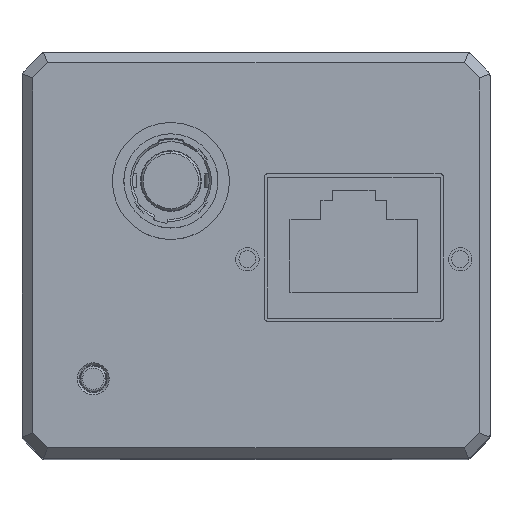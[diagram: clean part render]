
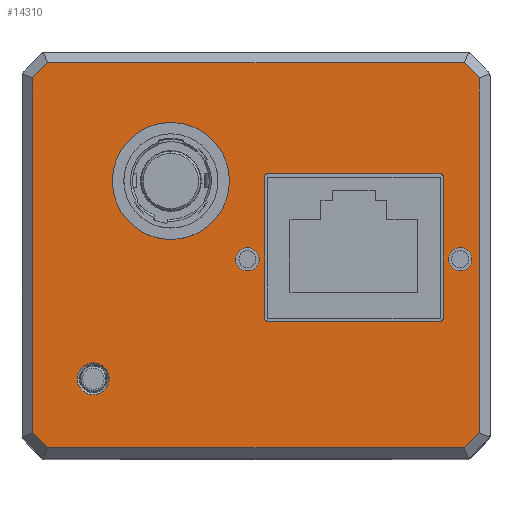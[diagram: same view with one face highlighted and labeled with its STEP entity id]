
A CAD part, top view. The second image highlights one B-rep face of the part: STEP entity #14310.
In plain terms, the highlighted planar face has unit normal (0, 0, 1).
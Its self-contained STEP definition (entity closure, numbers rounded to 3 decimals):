
#756=DIRECTION('',(0.,1.,0.));
#757=VECTOR('',#756,33.372);
#758=CARTESIAN_POINT('',(21.,-16.686,59.35));
#759=LINE('',#758,#757);
#760=DIRECTION('',(-0.707,-0.707,0.));
#761=VECTOR('',#760,2.);
#762=CARTESIAN_POINT('',(21.,-16.686,59.35));
#763=LINE('',#762,#761);
#764=DIRECTION('',(-0.707,0.707,0.));
#765=VECTOR('',#764,2.);
#766=CARTESIAN_POINT('',(-19.586,-18.1,59.35));
#767=LINE('',#766,#765);
#768=DIRECTION('',(0.707,0.707,0.));
#769=VECTOR('',#768,2.);
#770=CARTESIAN_POINT('',(-21.,16.686,59.35));
#771=LINE('',#770,#769);
#772=DIRECTION('',(0.707,-0.707,0.));
#773=VECTOR('',#772,2.);
#774=CARTESIAN_POINT('',(19.586,18.1,59.35));
#775=LINE('',#774,#773);
#776=CARTESIAN_POINT('',(-0.804,-0.35,59.35));
#777=DIRECTION('',(0.,0.,1.));
#778=DIRECTION('',(1.,0.,0.));
#779=AXIS2_PLACEMENT_3D('',#776,#777,#778);
#781=CARTESIAN_POINT('',(-0.804,-0.35,59.35));
#782=DIRECTION('',(0.,0.,1.));
#783=DIRECTION('',(-1.,0.,0.));
#784=AXIS2_PLACEMENT_3D('',#781,#782,#783);
#786=CARTESIAN_POINT('',(19.196,-0.35,59.35));
#787=DIRECTION('',(0.,0.,1.));
#788=DIRECTION('',(1.,0.,0.));
#789=AXIS2_PLACEMENT_3D('',#786,#787,#788);
#791=CARTESIAN_POINT('',(19.196,-0.35,59.35));
#792=DIRECTION('',(0.,0.,1.));
#793=DIRECTION('',(-1.,0.,0.));
#794=AXIS2_PLACEMENT_3D('',#791,#792,#793);
#796=CARTESIAN_POINT('',(1.1,7.4,59.35));
#797=DIRECTION('',(0.,0.,1.));
#798=DIRECTION('',(0.,1.,0.));
#799=AXIS2_PLACEMENT_3D('',#796,#797,#798);
#801=CARTESIAN_POINT('',(1.1,-5.9,59.35));
#802=DIRECTION('',(0.,0.,1.));
#803=DIRECTION('',(-1.,0.,0.));
#804=AXIS2_PLACEMENT_3D('',#801,#802,#803);
#806=CARTESIAN_POINT('',(17.3,-5.9,59.35));
#807=DIRECTION('',(0.,0.,1.));
#808=DIRECTION('',(0.,-1.,0.));
#809=AXIS2_PLACEMENT_3D('',#806,#807,#808);
#811=CARTESIAN_POINT('',(17.3,7.4,59.35));
#812=DIRECTION('',(0.,0.,1.));
#813=DIRECTION('',(1.,0.,0.));
#814=AXIS2_PLACEMENT_3D('',#811,#812,#813);
#816=CARTESIAN_POINT('',(-15.3,-11.6,59.35));
#817=DIRECTION('',(0.,0.,1.));
#818=DIRECTION('',(1.,0.,0.));
#819=AXIS2_PLACEMENT_3D('',#816,#817,#818);
#821=CARTESIAN_POINT('',(-8.,7.,59.35));
#822=DIRECTION('',(0.,0.,1.));
#823=DIRECTION('',(1.,0.,0.));
#824=AXIS2_PLACEMENT_3D('',#821,#822,#823);
#826=CARTESIAN_POINT('',(-8.,7.,59.35));
#827=DIRECTION('',(0.,0.,1.));
#828=DIRECTION('',(-1.,0.,0.));
#829=AXIS2_PLACEMENT_3D('',#826,#827,#828);
#858=DIRECTION('',(1.,0.,0.));
#859=VECTOR('',#858,39.172);
#860=CARTESIAN_POINT('',(-19.586,-18.1,59.35));
#861=LINE('',#860,#859);
#884=DIRECTION('',(0.,-1.,0.));
#885=VECTOR('',#884,33.372);
#886=CARTESIAN_POINT('',(-21.,16.686,59.35));
#887=LINE('',#886,#885);
#929=DIRECTION('',(-1.,0.,0.));
#930=VECTOR('',#929,39.172);
#931=CARTESIAN_POINT('',(19.586,18.1,59.35));
#932=LINE('',#931,#930);
#1213=DIRECTION('',(0.,-1.,0.));
#1214=VECTOR('',#1213,13.3);
#1215=CARTESIAN_POINT('',(17.6,7.4,59.35));
#1216=LINE('',#1215,#1214);
#1229=DIRECTION('',(1.,0.,0.));
#1230=VECTOR('',#1229,16.2);
#1231=CARTESIAN_POINT('',(1.1,7.7,59.35));
#1232=LINE('',#1231,#1230);
#1237=DIRECTION('',(0.,1.,0.));
#1238=VECTOR('',#1237,13.3);
#1239=CARTESIAN_POINT('',(0.8,-5.9,59.35));
#1240=LINE('',#1239,#1238);
#1245=DIRECTION('',(-1.,0.,0.));
#1246=VECTOR('',#1245,16.2);
#1247=CARTESIAN_POINT('',(17.3,-6.2,59.35));
#1248=LINE('',#1247,#1246);
#1318=CARTESIAN_POINT('',(-15.3,-11.6,59.35));
#1319=DIRECTION('',(0.,0.,-1.));
#1320=DIRECTION('',(1.,0.,0.));
#1321=AXIS2_PLACEMENT_3D('',#1318,#1319,#1320);
#11826=CARTESIAN_POINT('',(21.,-16.686,59.35));
#11827=CARTESIAN_POINT('',(21.,16.686,59.35));
#11828=VERTEX_POINT('',#11826);
#11829=VERTEX_POINT('',#11827);
#11830=CARTESIAN_POINT('',(19.586,-18.1,59.35));
#11831=VERTEX_POINT('',#11830);
#11832=CARTESIAN_POINT('',(-19.586,-18.1,59.35));
#11833=VERTEX_POINT('',#11832);
#11834=CARTESIAN_POINT('',(-21.,-16.686,59.35));
#11835=VERTEX_POINT('',#11834);
#11836=CARTESIAN_POINT('',(-21.,16.686,59.35));
#11837=VERTEX_POINT('',#11836);
#11838=CARTESIAN_POINT('',(-19.586,18.1,59.35));
#11839=VERTEX_POINT('',#11838);
#11840=CARTESIAN_POINT('',(19.586,18.1,59.35));
#11841=VERTEX_POINT('',#11840);
#11842=CARTESIAN_POINT('',(0.296,-0.35,59.35));
#11843=CARTESIAN_POINT('',(-1.904,-0.35,59.35));
#11844=VERTEX_POINT('',#11842);
#11845=VERTEX_POINT('',#11843);
#11846=CARTESIAN_POINT('',(20.296,-0.35,59.35));
#11847=CARTESIAN_POINT('',(18.096,-0.35,59.35));
#11848=VERTEX_POINT('',#11846);
#11849=VERTEX_POINT('',#11847);
#11850=CARTESIAN_POINT('',(1.1,7.7,59.35));
#11851=CARTESIAN_POINT('',(17.3,7.7,59.35));
#11852=VERTEX_POINT('',#11850);
#11853=VERTEX_POINT('',#11851);
#11854=CARTESIAN_POINT('',(0.8,-5.9,59.35));
#11855=CARTESIAN_POINT('',(0.8,7.4,59.35));
#11856=VERTEX_POINT('',#11854);
#11857=VERTEX_POINT('',#11855);
#11858=CARTESIAN_POINT('',(17.3,-6.2,59.35));
#11859=CARTESIAN_POINT('',(1.1,-6.2,59.35));
#11860=VERTEX_POINT('',#11858);
#11861=VERTEX_POINT('',#11859);
#11862=CARTESIAN_POINT('',(17.6,7.4,59.35));
#11863=CARTESIAN_POINT('',(17.6,-5.9,59.35));
#11864=VERTEX_POINT('',#11862);
#11865=VERTEX_POINT('',#11863);
#11866=CARTESIAN_POINT('',(-13.8,-11.6,59.35));
#11867=CARTESIAN_POINT('',(-16.8,-11.6,59.35));
#11868=VERTEX_POINT('',#11866);
#11869=VERTEX_POINT('',#11867);
#13413=CARTESIAN_POINT('',(-2.5,7.,59.35));
#13414=CARTESIAN_POINT('',(-13.5,7.,59.35));
#13415=VERTEX_POINT('',#13413);
#13416=VERTEX_POINT('',#13414);
#14246=CARTESIAN_POINT('',(0.,0.,59.35));
#14247=DIRECTION('',(0.,0.,1.));
#14248=DIRECTION('',(1.,0.,0.));
#14249=AXIS2_PLACEMENT_3D('',#14246,#14247,#14248);
#14250=PLANE('',#14249);
#14251=ORIENTED_EDGE('',*,*,#14234,.F.);
#14253=ORIENTED_EDGE('',*,*,#14252,.T.);
#14255=ORIENTED_EDGE('',*,*,#14254,.F.);
#14257=ORIENTED_EDGE('',*,*,#14256,.T.);
#14259=ORIENTED_EDGE('',*,*,#14258,.F.);
#14261=ORIENTED_EDGE('',*,*,#14260,.T.);
#14263=ORIENTED_EDGE('',*,*,#14262,.F.);
#14265=ORIENTED_EDGE('',*,*,#14264,.T.);
#14266=EDGE_LOOP('',(#14251,#14253,#14255,#14257,#14259,#14261,#14263,#14265));
#14267=FACE_OUTER_BOUND('',#14266,.F.);
#14269=ORIENTED_EDGE('',*,*,#14268,.T.);
#14271=ORIENTED_EDGE('',*,*,#14270,.T.);
#14272=EDGE_LOOP('',(#14269,#14271));
#14273=FACE_BOUND('',#14272,.F.);
#14275=ORIENTED_EDGE('',*,*,#14274,.T.);
#14277=ORIENTED_EDGE('',*,*,#14276,.T.);
#14278=EDGE_LOOP('',(#14275,#14277));
#14279=FACE_BOUND('',#14278,.F.);
#14281=ORIENTED_EDGE('',*,*,#14280,.F.);
#14283=ORIENTED_EDGE('',*,*,#14282,.T.);
#14285=ORIENTED_EDGE('',*,*,#14284,.F.);
#14287=ORIENTED_EDGE('',*,*,#14286,.T.);
#14289=ORIENTED_EDGE('',*,*,#14288,.F.);
#14291=ORIENTED_EDGE('',*,*,#14290,.T.);
#14293=ORIENTED_EDGE('',*,*,#14292,.F.);
#14295=ORIENTED_EDGE('',*,*,#14294,.T.);
#14296=EDGE_LOOP('',(#14281,#14283,#14285,#14287,#14289,#14291,#14293,#14295));
#14297=FACE_BOUND('',#14296,.F.);
#14299=ORIENTED_EDGE('',*,*,#14298,.T.);
#14301=ORIENTED_EDGE('',*,*,#14300,.F.);
#14302=EDGE_LOOP('',(#14299,#14301));
#14303=FACE_BOUND('',#14302,.F.);
#14305=ORIENTED_EDGE('',*,*,#14304,.T.);
#14307=ORIENTED_EDGE('',*,*,#14306,.T.);
#14308=EDGE_LOOP('',(#14305,#14307));
#14309=FACE_BOUND('',#14308,.F.);
#14310=ADVANCED_FACE('',(#14267,#14273,#14279,#14297,#14303,#14309),#14250,.T.);
#780=CIRCLE('',#779,1.1);
#785=CIRCLE('',#784,1.1);
#790=CIRCLE('',#789,1.1);
#795=CIRCLE('',#794,1.1);
#800=CIRCLE('',#799,0.3);
#805=CIRCLE('',#804,0.3);
#810=CIRCLE('',#809,0.3);
#815=CIRCLE('',#814,0.3);
#820=CIRCLE('',#819,1.5);
#825=CIRCLE('',#824,5.5);
#830=CIRCLE('',#829,5.5);
#1322=CIRCLE('',#1321,1.5);
#14234=EDGE_CURVE('',#11828,#11829,#759,.T.);
#14252=EDGE_CURVE('',#11828,#11831,#763,.T.);
#14254=EDGE_CURVE('',#11833,#11831,#861,.T.);
#14256=EDGE_CURVE('',#11833,#11835,#767,.T.);
#14258=EDGE_CURVE('',#11837,#11835,#887,.T.);
#14260=EDGE_CURVE('',#11837,#11839,#771,.T.);
#14262=EDGE_CURVE('',#11841,#11839,#932,.T.);
#14264=EDGE_CURVE('',#11841,#11829,#775,.T.);
#14268=EDGE_CURVE('',#11844,#11845,#780,.T.);
#14270=EDGE_CURVE('',#11845,#11844,#785,.T.);
#14274=EDGE_CURVE('',#11848,#11849,#790,.T.);
#14276=EDGE_CURVE('',#11849,#11848,#795,.T.);
#14280=EDGE_CURVE('',#11852,#11853,#1232,.T.);
#14282=EDGE_CURVE('',#11852,#11857,#800,.T.);
#14284=EDGE_CURVE('',#11856,#11857,#1240,.T.);
#14286=EDGE_CURVE('',#11856,#11861,#805,.T.);
#14288=EDGE_CURVE('',#11860,#11861,#1248,.T.);
#14290=EDGE_CURVE('',#11860,#11865,#810,.T.);
#14292=EDGE_CURVE('',#11864,#11865,#1216,.T.);
#14294=EDGE_CURVE('',#11864,#11853,#815,.T.);
#14298=EDGE_CURVE('',#11868,#11869,#820,.T.);
#14300=EDGE_CURVE('',#11868,#11869,#1322,.T.);
#14304=EDGE_CURVE('',#13415,#13416,#825,.T.);
#14306=EDGE_CURVE('',#13416,#13415,#830,.T.);
